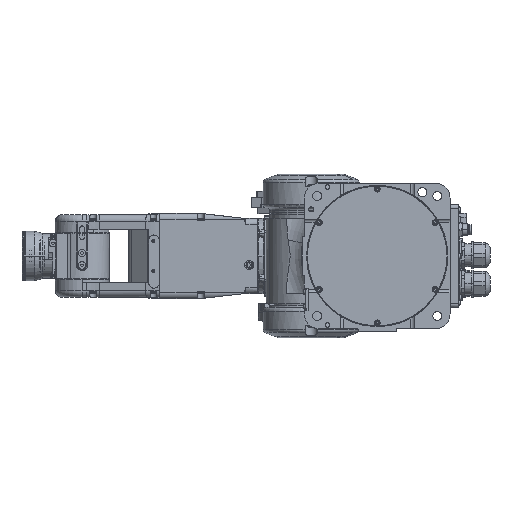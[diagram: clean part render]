
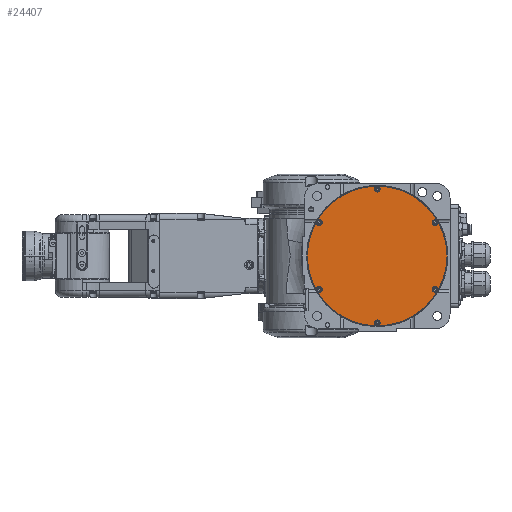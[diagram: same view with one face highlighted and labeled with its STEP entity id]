
A CAD part, front view. The second image highlights one B-rep face of the part: STEP entity #24407.
In plain terms, the highlighted planar face has unit normal (0, -1, 0).
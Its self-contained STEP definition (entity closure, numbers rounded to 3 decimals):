
#18011 = VERTEX_POINT( '', #52968 );
#20817 = EDGE_CURVE( '', #21741, #23505, #56079, .T. );
#21217 = EDGE_CURVE( '', #23505, #21741, #56512, .T. );
#21595 = VERTEX_POINT( '', #56924 );
#21741 = VERTEX_POINT( '', #57089 );
#22259 = EDGE_CURVE( '', #18011, #41485, #57673, .T. );
#23505 = VERTEX_POINT( '', #59065 );
#24347 = EDGE_CURVE( '', #37485, #21595, #60008, .T. );
#24407 = ADVANCED_FACE( '', ( #60072, #60073, #60074, #60075, #60076, #60077, #60078 ), #60079, .T. );
#28309 = EDGE_CURVE( '', #30893, #40923, #64394, .T. );
#28753 = EDGE_CURVE( '', #36703, #48339, #64880, .T. );
#30893 = VERTEX_POINT( '', #67254 );
#31147 = VERTEX_POINT( '', #67534 );
#32031 = VERTEX_POINT( '', #68533 );
#36211 = EDGE_CURVE( '', #50621, #31147, #73155, .T. );
#36319 = EDGE_CURVE( '', #32031, #43611, #73275, .T. );
#36703 = VERTEX_POINT( '', #73690 );
#37485 = VERTEX_POINT( '', #74542 );
#38361 = EDGE_CURVE( '', #48339, #36703, #75502, .T. );
#40845 = EDGE_CURVE( '', #43611, #32031, #78226, .T. );
#40923 = VERTEX_POINT( '', #78315 );
#41485 = VERTEX_POINT( '', #78938 );
#41995 = EDGE_CURVE( '', #31147, #50621, #79510, .T. );
#43611 = VERTEX_POINT( '', #81302 );
#45241 = EDGE_CURVE( '', #41485, #18011, #83099, .T. );
#45353 = EDGE_CURVE( '', #21595, #37485, #83224, .T. );
#48339 = VERTEX_POINT( '', #86553 );
#49135 = EDGE_CURVE( '', #40923, #30893, #87432, .T. );
#50621 = VERTEX_POINT( '', #89087 );
#52968 = CARTESIAN_POINT( '', ( 80.367, 3.4, -46.4 ) );
#56079 = CIRCLE( '', #96743, 3.8 );
#56512 = CIRCLE( '', #97388, 3.8 );
#56924 = CARTESIAN_POINT( '', ( 73.785, 3.4, 42.6 ) );
#57089 = CARTESIAN_POINT( '', ( 0., 3.4, -85.2 ) );
#57673 = CIRCLE( '', #99187, 3.8 );
#59065 = CARTESIAN_POINT( '', ( 0., 3.4, -92.8 ) );
#60008 = CIRCLE( '', #102829, 3.8 );
#60072 = FACE_BOUND( '', #102922, .T. );
#60073 = FACE_BOUND( '', #102923, .T. );
#60074 = FACE_BOUND( '', #102924, .T. );
#60075 = FACE_BOUND( '', #102925, .T. );
#60076 = FACE_BOUND( '', #102926, .T. );
#60077 = FACE_BOUND( '', #102927, .T. );
#60078 = FACE_OUTER_BOUND( '', #102928, .T. );
#60079 = PLANE( '', #102929 );
#64394 = CIRCLE( '', #109600, 3.8 );
#64880 = CIRCLE( '', #110326, 3.8 );
#67254 = CARTESIAN_POINT( '', ( -80.367, 3.4, 46.4 ) );
#67534 = CARTESIAN_POINT( '', ( -93., 3.4, 0. ) );
#68533 = CARTESIAN_POINT( '', ( -80.367, 3.4, -46.4 ) );
#73155 = CIRCLE( '', #123021, 93. );
#73275 = CIRCLE( '', #123210, 3.8 );
#73690 = CARTESIAN_POINT( '', ( 0., 3.4, 85.2 ) );
#74542 = CARTESIAN_POINT( '', ( 80.367, 3.4, 46.4 ) );
#75502 = CIRCLE( '', #126607, 3.8 );
#78226 = CIRCLE( '', #130973, 3.8 );
#78315 = CARTESIAN_POINT( '', ( -73.785, 3.4, 42.6 ) );
#78938 = CARTESIAN_POINT( '', ( 73.785, 3.4, -42.6 ) );
#79510 = CIRCLE( '', #132854, 93. );
#81302 = CARTESIAN_POINT( '', ( -73.785, 3.4, -42.6 ) );
#83099 = CIRCLE( '', #138401, 3.8 );
#83224 = CIRCLE( '', #138596, 3.8 );
#86553 = CARTESIAN_POINT( '', ( 0., 3.4, 92.8 ) );
#87432 = CIRCLE( '', #145051, 3.8 );
#89087 = CARTESIAN_POINT( '', ( 93., 3.4, 0. ) );
#96743 = AXIS2_PLACEMENT_3D( '', #155010, #155011, #155012 );
#97388 = AXIS2_PLACEMENT_3D( '', #155448, #155449, #155450 );
#99187 = AXIS2_PLACEMENT_3D( '', #156833, #156834, #156835 );
#102829 = AXIS2_PLACEMENT_3D( '', #159641, #159642, #159643 );
#102922 = EDGE_LOOP( '', ( #159696, #159697 ) );
#102923 = EDGE_LOOP( '', ( #159698, #159699 ) );
#102924 = EDGE_LOOP( '', ( #159700, #159701 ) );
#102925 = EDGE_LOOP( '', ( #159702, #159703 ) );
#102926 = EDGE_LOOP( '', ( #159704, #159705 ) );
#102927 = EDGE_LOOP( '', ( #159706, #159707 ) );
#102928 = EDGE_LOOP( '', ( #159708, #159709 ) );
#102929 = AXIS2_PLACEMENT_3D( '', #159710, #159711, #159712 );
#109600 = AXIS2_PLACEMENT_3D( '', #164666, #164667, #164668 );
#110326 = AXIS2_PLACEMENT_3D( '', #165219, #165220, #165221 );
#123021 = AXIS2_PLACEMENT_3D( '', #175002, #175003, #175004 );
#123210 = AXIS2_PLACEMENT_3D( '', #175148, #175149, #175150 );
#126607 = AXIS2_PLACEMENT_3D( '', #177629, #177630, #177631 );
#130973 = AXIS2_PLACEMENT_3D( '', #180599, #180600, #180601 );
#132854 = AXIS2_PLACEMENT_3D( '', #182153, #182154, #182155 );
#138401 = AXIS2_PLACEMENT_3D( '', #186283, #186284, #186285 );
#138596 = AXIS2_PLACEMENT_3D( '', #186448, #186449, #186450 );
#145051 = AXIS2_PLACEMENT_3D( '', #191527, #191528, #191529 );
#155010 = CARTESIAN_POINT( '', ( 0., 3.4, -89. ) );
#155011 = DIRECTION( '', ( 0., 1., 0. ) );
#155012 = DIRECTION( '', ( 0., 0., -1. ) );
#155448 = CARTESIAN_POINT( '', ( 0., 3.4, -89. ) );
#155449 = DIRECTION( '', ( 0., 1., 0. ) );
#155450 = DIRECTION( '', ( 0., 0., -1. ) );
#156833 = CARTESIAN_POINT( '', ( 77.076, 3.4, -44.5 ) );
#156834 = DIRECTION( '', ( 0., 1., 0. ) );
#156835 = DIRECTION( '', ( 0.866, 0., -0.5 ) );
#159641 = CARTESIAN_POINT( '', ( 77.076, 3.4, 44.5 ) );
#159642 = DIRECTION( '', ( 0., 1., 0. ) );
#159643 = DIRECTION( '', ( -0.866, 0., -0.5 ) );
#159696 = ORIENTED_EDGE( '', *, *, #49135, .T. );
#159697 = ORIENTED_EDGE( '', *, *, #28309, .T. );
#159698 = ORIENTED_EDGE( '', *, *, #22259, .T. );
#159699 = ORIENTED_EDGE( '', *, *, #45241, .T. );
#159700 = ORIENTED_EDGE( '', *, *, #45353, .T. );
#159701 = ORIENTED_EDGE( '', *, *, #24347, .T. );
#159702 = ORIENTED_EDGE( '', *, *, #36319, .T. );
#159703 = ORIENTED_EDGE( '', *, *, #40845, .T. );
#159704 = ORIENTED_EDGE( '', *, *, #28753, .T. );
#159705 = ORIENTED_EDGE( '', *, *, #38361, .T. );
#159706 = ORIENTED_EDGE( '', *, *, #21217, .T. );
#159707 = ORIENTED_EDGE( '', *, *, #20817, .T. );
#159708 = ORIENTED_EDGE( '', *, *, #36211, .F. );
#159709 = ORIENTED_EDGE( '', *, *, #41995, .F. );
#159710 = CARTESIAN_POINT( '', ( 46.5, 3.4, 0. ) );
#159711 = DIRECTION( '', ( 0., -1., 0. ) );
#159712 = DIRECTION( '', ( -1., 0., 0. ) );
#164666 = CARTESIAN_POINT( '', ( -77.076, 3.4, 44.5 ) );
#164667 = DIRECTION( '', ( 0., 1., 0. ) );
#164668 = DIRECTION( '', ( 0.866, 0., -0.5 ) );
#165219 = CARTESIAN_POINT( '', ( 0., 3.4, 89. ) );
#165220 = DIRECTION( '', ( 0., 1., 0. ) );
#165221 = DIRECTION( '', ( 0., 0., -1. ) );
#175002 = CARTESIAN_POINT( '', ( 0., 3.4, 0. ) );
#175003 = DIRECTION( '', ( 0., 1., 0. ) );
#175004 = DIRECTION( '', ( 1., 0., 0. ) );
#175148 = CARTESIAN_POINT( '', ( -77.076, 3.4, -44.5 ) );
#175149 = DIRECTION( '', ( 0., 1., 0. ) );
#175150 = DIRECTION( '', ( -0.866, 0., -0.5 ) );
#177629 = CARTESIAN_POINT( '', ( 0., 3.4, 89. ) );
#177630 = DIRECTION( '', ( 0., 1., 0. ) );
#177631 = DIRECTION( '', ( 0., 0., -1. ) );
#180599 = CARTESIAN_POINT( '', ( -77.076, 3.4, -44.5 ) );
#180600 = DIRECTION( '', ( 0., 1., 0. ) );
#180601 = DIRECTION( '', ( -0.866, 0., -0.5 ) );
#182153 = CARTESIAN_POINT( '', ( 0., 3.4, 0. ) );
#182154 = DIRECTION( '', ( 0., 1., 0. ) );
#182155 = DIRECTION( '', ( 1., 0., 0. ) );
#186283 = CARTESIAN_POINT( '', ( 77.076, 3.4, -44.5 ) );
#186284 = DIRECTION( '', ( 0., 1., 0. ) );
#186285 = DIRECTION( '', ( 0.866, 0., -0.5 ) );
#186448 = CARTESIAN_POINT( '', ( 77.076, 3.4, 44.5 ) );
#186449 = DIRECTION( '', ( 0., 1., 0. ) );
#186450 = DIRECTION( '', ( -0.866, 0., -0.5 ) );
#191527 = CARTESIAN_POINT( '', ( -77.076, 3.4, 44.5 ) );
#191528 = DIRECTION( '', ( 0., 1., 0. ) );
#191529 = DIRECTION( '', ( 0.866, 0., -0.5 ) );
